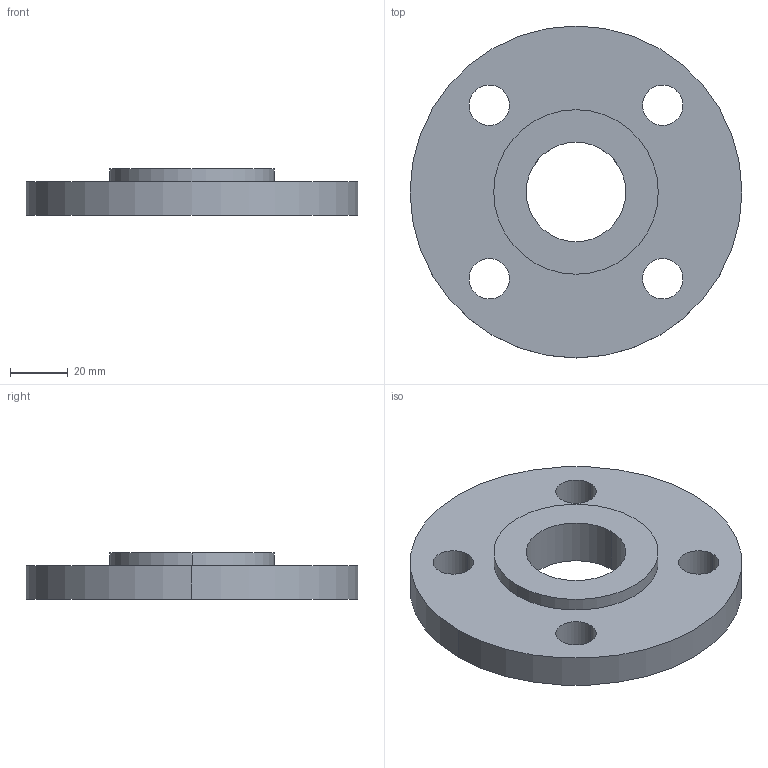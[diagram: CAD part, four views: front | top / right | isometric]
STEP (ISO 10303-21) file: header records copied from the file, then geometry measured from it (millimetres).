
FILE_DESCRIPTION (( 'STEP AP214' ), '1' );
FILE_NAME ('PN40 DN25 Type 01 - Type E Face.STEP', '2018-12-29T20:38:47', ( '' ), ( '' ), 'SwSTEP 2.0', 'SolidWorks 2019', '' );
FILE_SCHEMA (( 'AUTOMOTIVE_DESIGN' ));
Length unit declared in the file: millimetre
Products named in the file (1): PN40 DN25 Type 01 - Type E Face
Bounding box: 115 x 115 x 16 mm (x, y, z)
Volume: 108893.9 mm3; surface area: 26390.6 mm2
Topology: 1 solids, 1 shells, 17 faces, 42 edges, 28 vertices
Faces by surface type: cylinder 14, plane 3
Entity records: 578 total; most frequent: DIRECTION 106, CARTESIAN_POINT 88, ORIENTED_EDGE 84, AXIS2_PLACEMENT_3D 46, EDGE_CURVE 42, CIRCLE 28, EDGE_LOOP 28, VERTEX_POINT 28
